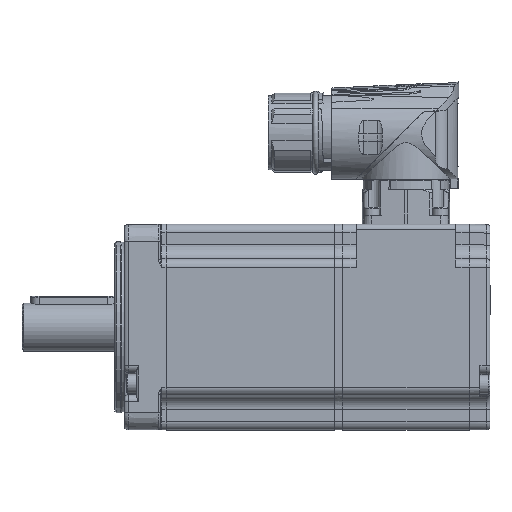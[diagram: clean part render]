
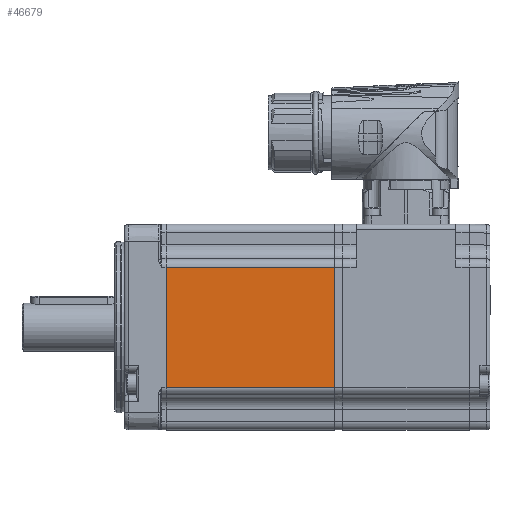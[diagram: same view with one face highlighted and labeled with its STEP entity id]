
A CAD part, left-side view. The second image highlights one B-rep face of the part: STEP entity #46679.
In plain terms, the highlighted planar face has unit normal (-1, 0, 0) as drawn and (0, 1, 0) by its records, which use the part's own axes.
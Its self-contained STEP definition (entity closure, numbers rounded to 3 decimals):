
#16325=LINE('',#79066,#18528);
#16326=LINE('',#79069,#18529);
#16327=LINE('',#79071,#18530);
#16328=LINE('',#79073,#18531);
#18528=VECTOR('',#58083,1000.);
#18529=VECTOR('',#58084,1000.);
#18530=VECTOR('',#58085,1000.);
#18531=VECTOR('',#58086,1000.);
#26973=ORIENTED_EDGE('',*,*,#32763,.T.);
#26974=ORIENTED_EDGE('',*,*,#32764,.T.);
#26975=ORIENTED_EDGE('',*,*,#32765,.T.);
#26976=ORIENTED_EDGE('',*,*,#32766,.T.);
#32763=EDGE_CURVE('',#36409,#36410,#16325,.F.);
#32764=EDGE_CURVE('',#36410,#36411,#16326,.T.);
#32765=EDGE_CURVE('',#36411,#36412,#16327,.T.);
#32766=EDGE_CURVE('',#36412,#36409,#16328,.T.);
#36409=VERTEX_POINT('',#79067);
#36410=VERTEX_POINT('',#79068);
#36411=VERTEX_POINT('',#79070);
#36412=VERTEX_POINT('',#79072);
#40699=EDGE_LOOP('',(#26973,#26974,#26975,#26976));
#43497=FACE_BOUND('',#40699,.T.);
#44818=PLANE('',#49944);
#46679=ADVANCED_FACE('',(#43497),#44818,.T.);
#49944=AXIS2_PLACEMENT_3D('',#79065,#58081,#58082);
#58081=DIRECTION('',(0.,1.,0.));
#58082=DIRECTION('',(0.,0.,1.));
#58083=DIRECTION('',(-1.,0.,0.));
#58084=DIRECTION('',(0.,0.,-1.));
#58085=DIRECTION('',(-1.,0.,0.));
#58086=DIRECTION('',(0.,0.,1.));
#79065=CARTESIAN_POINT('',(-200.,30.,-30.));
#79066=CARTESIAN_POINT('',(0.,30.,17.5));
#79067=CARTESIAN_POINT('',(-50.,30.,17.5));
#79068=CARTESIAN_POINT('',(-1.,30.,17.5));
#79069=CARTESIAN_POINT('',(-1.,30.,-30.));
#79070=CARTESIAN_POINT('',(-1.,30.,-17.5));
#79071=CARTESIAN_POINT('',(-200.,30.,-17.5));
#79072=CARTESIAN_POINT('',(-50.,30.,-17.5));
#79073=CARTESIAN_POINT('',(-50.,30.,-30.));
